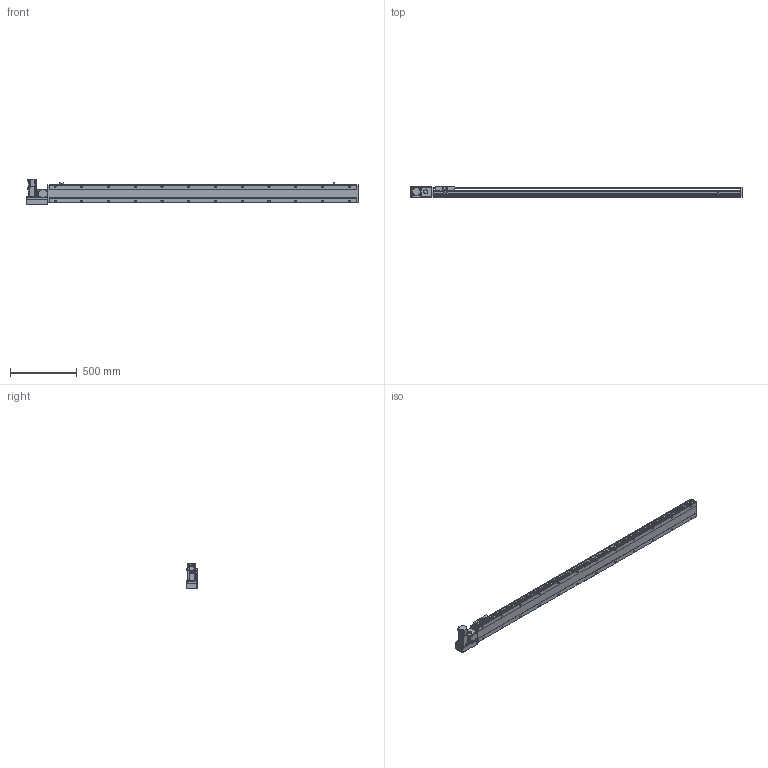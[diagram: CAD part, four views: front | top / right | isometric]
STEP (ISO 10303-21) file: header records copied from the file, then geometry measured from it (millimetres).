
FILE_DESCRIPTION( ( 'STEP AP214' ), '1' );
FILE_NAME( 'x:/temp/worker_27/temp/exporttempdir_6708_307_H4LTu/format_0/PBS140-P40-S2050-L-T40-C1-N(0).stp', '2022-06-06T01:06:27', ( 'License CC BY-ND 4.0' ), ( 'CADENAS' ), ' ', 'PARTsolutions', ' ' );
FILE_SCHEMA( ( 'AUTOMOTIVE_DESIGN { 1 0 10303 214 1 1 1 1 }' ) );
Length unit declared in the file: millimetre
Products named in the file (7): PBS140-P40-S2050-L-T40-C1-N(0); _PBS140-S2050()_body; _PBS140T-L_motors; _T40-p1; _PBS140_sliser; _PBS140_plant; _PBS140_sensor
Assembly tree (8 placements, depth 2):
  PBS140-P40-S2050-L-T40-C1-N(0)
    _PBS140-S2050()_body
    _PBS140T-L_motors
    _T40-p1
    _PBS140_sliser
    _PBS140_plant
    _PBS140_sensor  x3
Bounding box: 2483 x 80.5 x 189.7 mm (x, y, z)
Volume: 10915651.9 mm3; surface area: 1867351.5 mm2
Topology: 8 solids, 8 shells, 1139 faces, 2996 edges, 1957 vertices
Faces by surface type: plane 716, cylinder 363, cone 50, sphere 8, torus 2
Full cylindrical faces by diameter (mm): 3.242 x4, 4 x2, 4.134 x4, 4.4 x8, 4.5 x2, 4.8 x4, 4.917 x32, 5.5 x7, 6 x2, 7 x26, 7.5 x8, 8 x12, 8.5 x4, 10.5 x24, 14 x1, 30 x2, 50 x2
Entity records: 41857 total; most frequent: CARTESIAN_POINT 6923, DIRECTION 5477, ORIENTED_EDGE 5152, EDGE_CURVE 2576, AXIS2_PLACEMENT_3D 1927, VERTEX_POINT 1797, LINE 1623, VECTOR 1623
